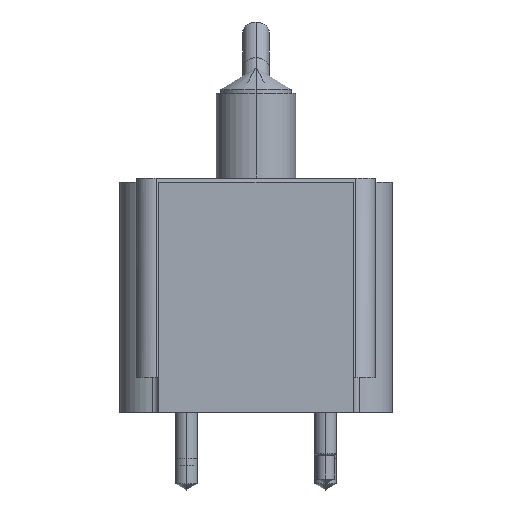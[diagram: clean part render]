
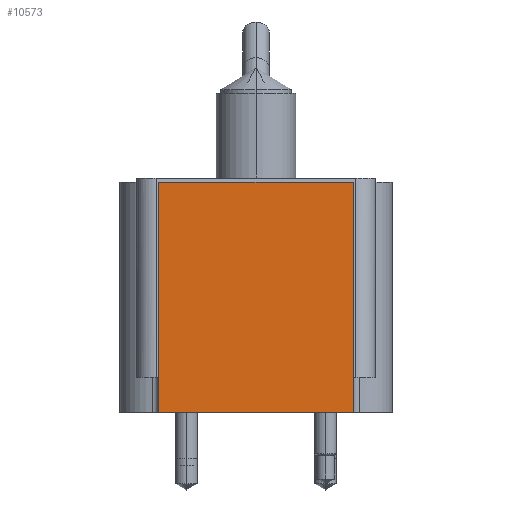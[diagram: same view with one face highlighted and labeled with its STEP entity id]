
A CAD part, left-side view. The second image highlights one B-rep face of the part: STEP entity #10573.
In plain terms, the highlighted planar face has unit normal (-1, 0, 0).
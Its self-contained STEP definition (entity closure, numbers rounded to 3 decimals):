
#10399=CARTESIAN_POINT('',(-84.201,34.988,82.55));
#10400=VERTEX_POINT('',#10399);
#10407=CARTESIAN_POINT('',(-84.201,-34.988,82.55));
#10408=VERTEX_POINT('',#10407);
#10409=CARTESIAN_POINT('',(-84.201,0.0,82.55));
#10410=DIRECTION('',(0.0,1.0,0.0));
#10411=VECTOR('',#10410,1.0);
#10412=LINE('',#10409,#10411);
#10413=EDGE_CURVE('',#10408,#10400,#10412,.T.);
#10543=CARTESIAN_POINT('',(-84.201,34.988,0.0));
#10544=VERTEX_POINT('',#10543);
#10545=CARTESIAN_POINT('',(-84.201,34.988,0.0));
#10546=DIRECTION('',(0.0,0.0,1.0));
#10547=VECTOR('',#10546,1.0);
#10548=LINE('',#10545,#10547);
#10549=EDGE_CURVE('',#10544,#10400,#10548,.T.);
#10550=ORIENTED_EDGE('',*,*,#10549,.F.);
#10551=CARTESIAN_POINT('',(-84.201,-34.988,0.0));
#10552=VERTEX_POINT('',#10551);
#10553=CARTESIAN_POINT('',(-84.201,0.0,0.0));
#10554=DIRECTION('',(0.0,-1.0,0.0));
#10555=VECTOR('',#10554,1.0);
#10556=LINE('',#10553,#10555);
#10557=EDGE_CURVE('',#10544,#10552,#10556,.T.);
#10558=ORIENTED_EDGE('',*,*,#10557,.T.);
#10559=CARTESIAN_POINT('',(-84.201,-34.988,0.0));
#10560=DIRECTION('',(0.0,0.0,-1.0));
#10561=VECTOR('',#10560,1.0);
#10562=LINE('',#10559,#10561);
#10563=EDGE_CURVE('',#10408,#10552,#10562,.T.);
#10564=ORIENTED_EDGE('',*,*,#10563,.F.);
#10565=ORIENTED_EDGE('',*,*,#10413,.T.);
#10566=EDGE_LOOP('',(#10550,#10558,#10564,#10565));
#10567=FACE_OUTER_BOUND('',#10566,.T.);
#10568=CARTESIAN_POINT('',(-84.201,0.0,0.0));
#10569=DIRECTION('',(-1.0,0.0,-0.0));
#10570=DIRECTION('',(-0.0,0.0,1.0));
#10571=AXIS2_PLACEMENT_3D('',#10568,#10569,#10570);
#10572=PLANE('',#10571);
#10573=ADVANCED_FACE('',(#10567),#10572,.T.);
